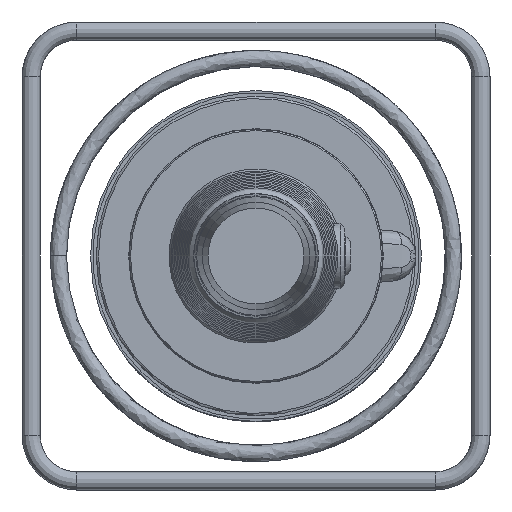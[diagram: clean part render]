
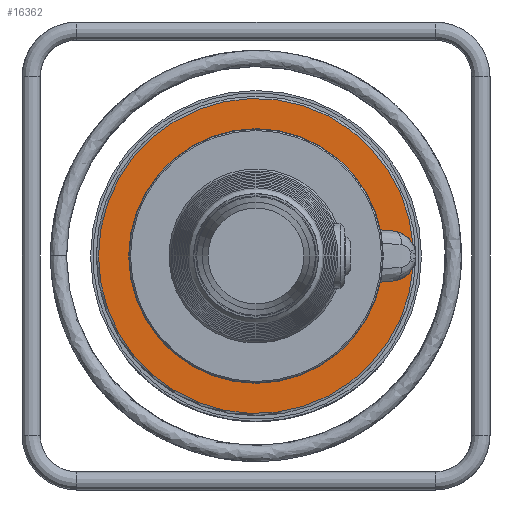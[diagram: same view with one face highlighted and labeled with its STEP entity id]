
A CAD part, left-side view. The second image highlights one B-rep face of the part: STEP entity #16362.
In plain terms, the highlighted planar face has unit normal (-1, 0, 0).
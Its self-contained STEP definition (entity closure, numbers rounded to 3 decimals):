
#921=LINE('',#37775,#1795);
#922=LINE('',#37782,#1796);
#1795=VECTOR('',#20333,30.808);
#1796=VECTOR('',#20340,30.808);
#2576=PLANE('',#17422);
#4535=FACE_OUTER_BOUND('',#5648,.T.);
#5648=EDGE_LOOP('',(#14392,#14393,#14394,#14395,#14396,#14397,#14398,#14399));
#6359=CIRCLE('',#17423,22.);
#6360=CIRCLE('',#17424,138.);
#6361=CIRCLE('',#17425,22.);
#6362=CIRCLE('',#17426,10.);
#6363=CIRCLE('',#17427,91.5);
#6364=CIRCLE('',#17428,10.);
#7917=VERTEX_POINT('',#37767);
#7918=VERTEX_POINT('',#37768);
#7919=VERTEX_POINT('',#37770);
#7920=VERTEX_POINT('',#37772);
#7921=VERTEX_POINT('',#37774);
#7922=VERTEX_POINT('',#37776);
#7923=VERTEX_POINT('',#37778);
#7924=VERTEX_POINT('',#37780);
#10136=EDGE_CURVE('',#7917,#7918,#6359,.T.);
#10137=EDGE_CURVE('',#7919,#7918,#6360,.T.);
#10138=EDGE_CURVE('',#7919,#7920,#6361,.T.);
#10139=EDGE_CURVE('',#7920,#7921,#921,.T.);
#10140=EDGE_CURVE('',#7921,#7922,#6362,.T.);
#10141=EDGE_CURVE('',#7922,#7923,#6363,.T.);
#10142=EDGE_CURVE('',#7923,#7924,#6364,.T.);
#10143=EDGE_CURVE('',#7924,#7917,#922,.T.);
#14392=ORIENTED_EDGE('',*,*,#10136,.T.);
#14393=ORIENTED_EDGE('',*,*,#10137,.F.);
#14394=ORIENTED_EDGE('',*,*,#10138,.T.);
#14395=ORIENTED_EDGE('',*,*,#10139,.T.);
#14396=ORIENTED_EDGE('',*,*,#10140,.T.);
#14397=ORIENTED_EDGE('',*,*,#10141,.T.);
#14398=ORIENTED_EDGE('',*,*,#10142,.T.);
#14399=ORIENTED_EDGE('',*,*,#10143,.T.);
#16362=ADVANCED_FACE('',(#4535),#2576,.T.);
#17422=AXIS2_PLACEMENT_3D('',#37766,#20325,#20326);
#17423=AXIS2_PLACEMENT_3D('',#37769,#20327,#20328);
#17424=AXIS2_PLACEMENT_3D('',#37771,#20329,#20330);
#17425=AXIS2_PLACEMENT_3D('',#37773,#20331,#20332);
#17426=AXIS2_PLACEMENT_3D('',#37777,#20334,#20335);
#17427=AXIS2_PLACEMENT_3D('',#37779,#20336,#20337);
#17428=AXIS2_PLACEMENT_3D('',#37781,#20338,#20339);
#20325=DIRECTION('center_axis',(-1.,0.,0.));
#20326=DIRECTION('ref_axis',(0.,1.,0.));
#20327=DIRECTION('center_axis',(1.,0.,0.));
#20328=DIRECTION('ref_axis',(0.,0.087,0.996));
#20329=DIRECTION('center_axis',(1.,0.,0.));
#20330=DIRECTION('ref_axis',(0.,0.,
1.));
#20331=DIRECTION('center_axis',(1.,0.,0.));
#20332=DIRECTION('ref_axis',(0.,0.087,0.996));
#20333=DIRECTION('',(0.,0.996,-0.087));
#20334=DIRECTION('center_axis',(-1.,0.,0.));
#20335=DIRECTION('ref_axis',(0.,0.087,0.996));
#20336=DIRECTION('center_axis',(1.,0.,0.));
#20337=DIRECTION('ref_axis',(0.,0.,
1.));
#20338=DIRECTION('center_axis',(-1.,0.,0.));
#20339=DIRECTION('ref_axis',(0.,0.934,-0.358));
#20340=DIRECTION('',(0.,-0.996,-0.087));
#37766=CARTESIAN_POINT('Origin',(-17.009,-0.004,
114.75));
#37767=CARTESIAN_POINT('',(-17.009,-119.922,21.916));
#37768=CARTESIAN_POINT('',(-17.009,-137.649,9.905));
#37769=CARTESIAN_POINT('Origin',(-17.009,-118.004,0.));
#37770=CARTESIAN_POINT('',(-17.009,-137.649,-9.905));
#37771=CARTESIAN_POINT('Origin',(-17.009,-0.004,
0.));
#37772=CARTESIAN_POINT('',(-17.009,-119.922,-21.916));
#37773=CARTESIAN_POINT('Origin',(-17.009,-118.004,0.));
#37774=CARTESIAN_POINT('',(-17.009,-89.231,-24.601));
#37775=CARTESIAN_POINT('',(-17.009,-66.352,-26.603));
#37776=CARTESIAN_POINT('',(-17.009,-88.088,-24.768));
#37777=CARTESIAN_POINT('Origin',(-17.009,-90.102,-34.563));
#37778=CARTESIAN_POINT('',(-17.009,-88.088,24.768));
#37779=CARTESIAN_POINT('Origin',(-17.009,-0.004,
0.));
#37780=CARTESIAN_POINT('',(-17.009,-89.231,24.601));
#37781=CARTESIAN_POINT('Origin',(-17.009,-90.102,34.563));
#37782=CARTESIAN_POINT('',(-17.009,-41.043,28.817));
